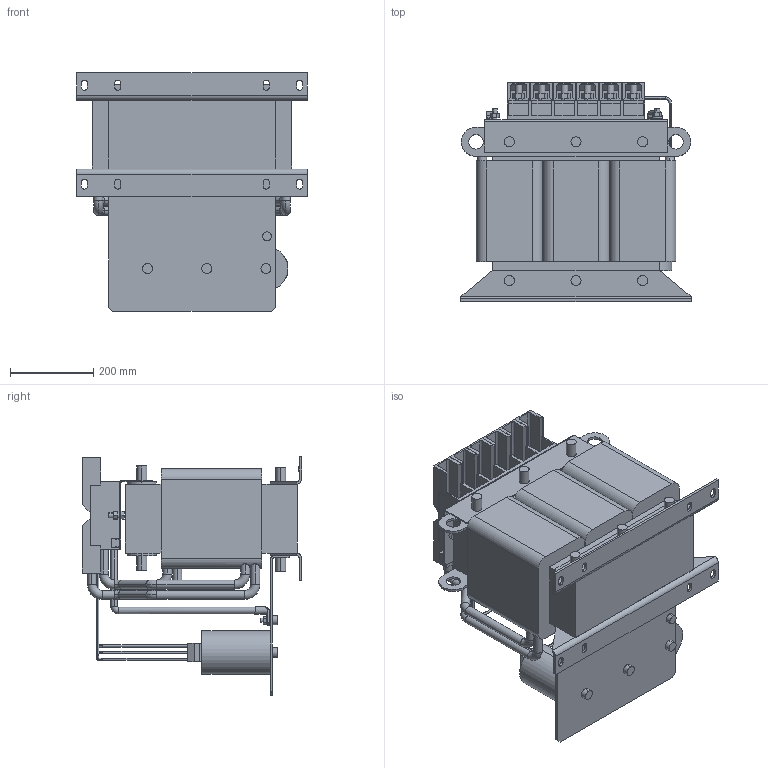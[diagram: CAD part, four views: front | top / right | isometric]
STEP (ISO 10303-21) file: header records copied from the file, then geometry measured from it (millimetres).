
FILE_DESCRIPTION (( 'STEP AP214' ), '1' );
FILE_NAME ('00Z1GX4-0028.STEP', '2022-11-22T13:34:06', ( '' ), ( '' ), 'SwSTEP 2.0', 'SolidWorks 2022', '' );
FILE_SCHEMA (( 'AUTOMOTIVE_DESIGN' ));
Length unit declared in the file: centimetre
Products named in the file (1): 00Z1GX4-0028
Bounding box: 552 x 525.73 x 572.3 mm (x, y, z)
Volume: 51992923.8 mm3; surface area: 2611970.8 mm2
Topology: 1 solids, 1 shells, 1001 faces, 2688 edges, 1730 vertices
Faces by surface type: plane 537, cylinder 316, torus 122, bspline 26
Entity records: 38479 total; most frequent: CARTESIAN_POINT 12720, ORIENTED_EDGE 5376, DIRECTION 5330, EDGE_CURVE 2688, AXIS2_PLACEMENT_3D 1851, VERTEX_POINT 1730, VECTOR 1628, LINE 1628
